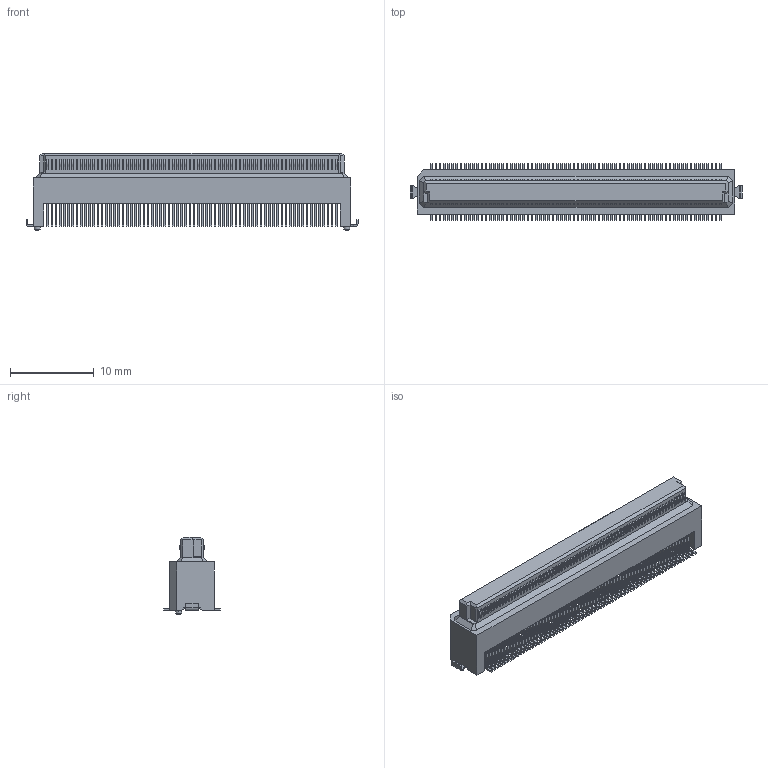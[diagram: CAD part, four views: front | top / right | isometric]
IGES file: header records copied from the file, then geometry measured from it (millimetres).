
Start section: Elysium IGES Interface
Global section: file name: 77HG:\怷忋\DY-3D(RE)\DY11-仩仩仩S-6-仩\P39894_DY11-140S-6\P39894_DY11-140S-6.igs; native system: Creo Elements/Direct Modeling 19.0F  14-Feb-2017; preprocessor: Creo Element/Direct IGES_3D V2.2; author: Unknown; organization: Unknown; date: 20200219.165150; units: millimetre
Bounding box: 39.7 x 6.8 x 9.23 mm (x, y, z)
Volume: 878.9 mm3; surface area: 1454.9 mm2
Topology: 1 solids, 1 shells, 3056 faces, 8145 edges, 5236 vertices
Faces by surface type: bspline 3056
